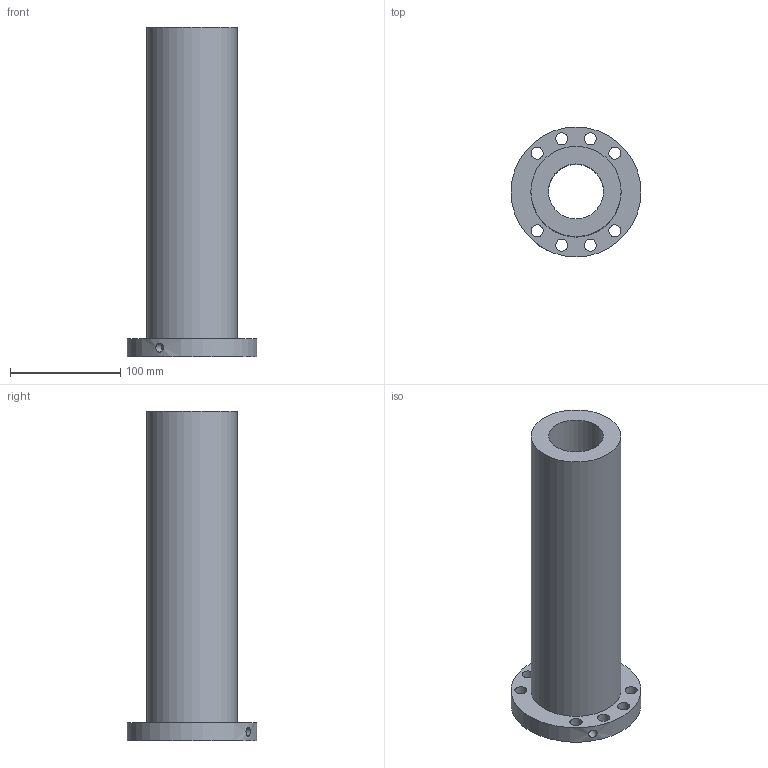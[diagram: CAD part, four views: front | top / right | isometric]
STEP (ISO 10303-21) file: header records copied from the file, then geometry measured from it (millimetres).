
FILE_DESCRIPTION(/* description */ (''),/* implementation_level */ '2;1');
FILE_NAME(/* name */ '50-30K4_635',/* time_stamp */ '2007-10-15T12:53:54+08:00',/* author */ (''),/* organization */ (''),/* preprocessor_version */ 'ST-DEVELOPER v11',/* originating_system */ 'UGS - NX 5.0',/* authorisation */ '');
FILE_SCHEMA (('CONFIG_CONTROL_DESIGN'));
Length unit declared in the file: millimetre
Products named in the file (1): 50-30K4_635
Bounding box: 118 x 118 x 299 mm (x, y, z)
Volume: 1069072.4 mm3; surface area: 147296.7 mm2
Topology: 1 solids, 1 shells, 17 faces, 40 edges, 27 vertices
Faces by surface type: cylinder 13, plane 4
Full cylindrical faces by diameter (mm): 6 x1, 8 x1, 11 x8, 50 x1, 82 x1, 118 x1
Entity records: 668 total; most frequent: CARTESIAN_POINT 184, DIRECTION 84, FACE_BOUND 52, EDGE_LOOP 52, ORIENTED_EDGE 52, AXIS2_PLACEMENT_3D 42, VERTEX_POINT 26, EDGE_CURVE 26
